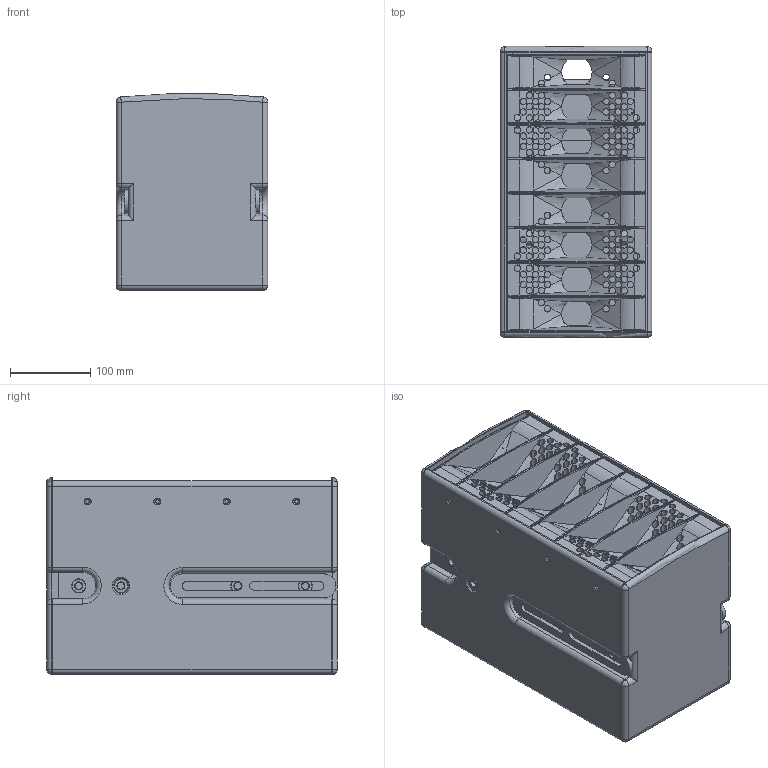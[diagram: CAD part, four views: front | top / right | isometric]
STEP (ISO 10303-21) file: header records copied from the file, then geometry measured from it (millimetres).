
FILE_DESCRIPTION (( 'STEP AP203' ), '1' );
FILE_NAME ('GL8i.STEP', '2015-07-14T13:18:04', ( 'Michael Anter' ), ( 'SEEBURG acoustic line GmbH' ), 'SwSTEP 2.0', 'SolidWorks 2009', '' );
FILE_SCHEMA (( 'CONFIG_CONTROL_DESIGN' ));
Length unit declared in the file: millimetre
Products named in the file (14): GL8i; GL8i_Tunnelbrettchen; GL8-Boden; GL8_Deckel; GL8i-Rückwand; GL8i-rechte-Seite; GL8i-linke-Seite; Gegenplatte_M10_komplett; Gegenplatte_M10-Punkte; Bolzen-3mm; Bolzen-15mm; GL16-Verbinder; GL16_Horn; ASF
Assembly tree (18 placements, depth 3):
  GL8i
    GL8i-rechte-Seite
    GL8_Deckel
    GL8i-Rückwand
    GL16_Horn  x2
    GL8i_Tunnelbrettchen
    GL8-Boden
    Gegenplatte_M10_komplett  x2
      Gegenplatte_M10-Punkte
      Bolzen-3mm
      Bolzen-15mm
    GL16-Verbinder  x2
    ASF
    GL8i-linke-Seite
Bounding box: 189 x 362 x 244.69 mm (x, y, z)
Volume: 5218996.2 mm3; surface area: 1203841.3 mm2
Topology: 21 solids, 21 shells, 1135 faces, 3314 edges, 2118 vertices
Faces by surface type: cylinder 620, plane 309, cone 108, bspline 64, sphere 22, torus 12
Entity records: 32555 total; most frequent: CARTESIAN_POINT 13715, ORIENTED_EDGE 3786, DIRECTION 3446, EDGE_CURVE 1893, AXIS2_PLACEMENT_3D 1307, VERTEX_POINT 1214, LINE 832, VECTOR 832
